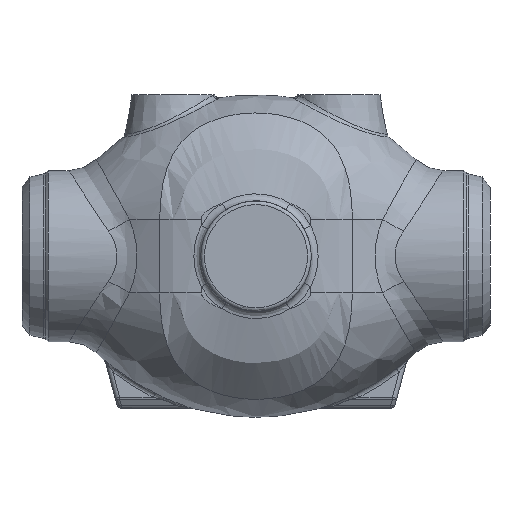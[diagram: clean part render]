
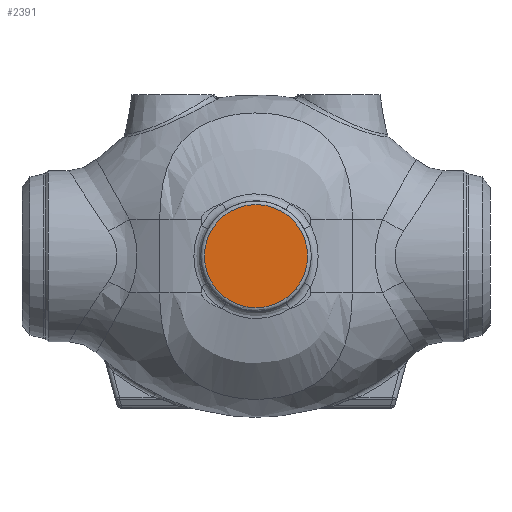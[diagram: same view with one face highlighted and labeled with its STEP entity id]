
A CAD part, front view. The second image highlights one B-rep face of the part: STEP entity #2391.
In plain terms, the highlighted planar face has unit normal (0, -1, 0).
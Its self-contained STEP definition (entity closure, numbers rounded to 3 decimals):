
#1577=PLANE('',#10605);
#1842=FACE_OUTER_BOUND('',#3819,.T.);
#2391=ADVANCED_FACE('',(#1842),#1577,.F.);
#3819=EDGE_LOOP('',(#5020));
#5020=ORIENTED_EDGE('',*,*,#8658,.T.);
#7702=VERTEX_POINT('',#17235);
#8658=EDGE_CURVE('',#7702,#7702,#9942,.T.);
#9942=CIRCLE('',#10604,56.);
#10604=AXIS2_PLACEMENT_3D('',#17234,#12062,#12063);
#10605=AXIS2_PLACEMENT_3D('',#17236,#12064,#12065);
#12062=DIRECTION('',(0.,-1.,0.));
#12063=DIRECTION('',(0.,0.,-1.));
#12064=DIRECTION('',(0.,1.,0.));
#12065=DIRECTION('',(0.,0.,-1.));
#17234=CARTESIAN_POINT('',(0.,-134.,0.));
#17235=CARTESIAN_POINT('',(0.,-134.,-56.));
#17236=CARTESIAN_POINT('',(0.,-134.,0.));
